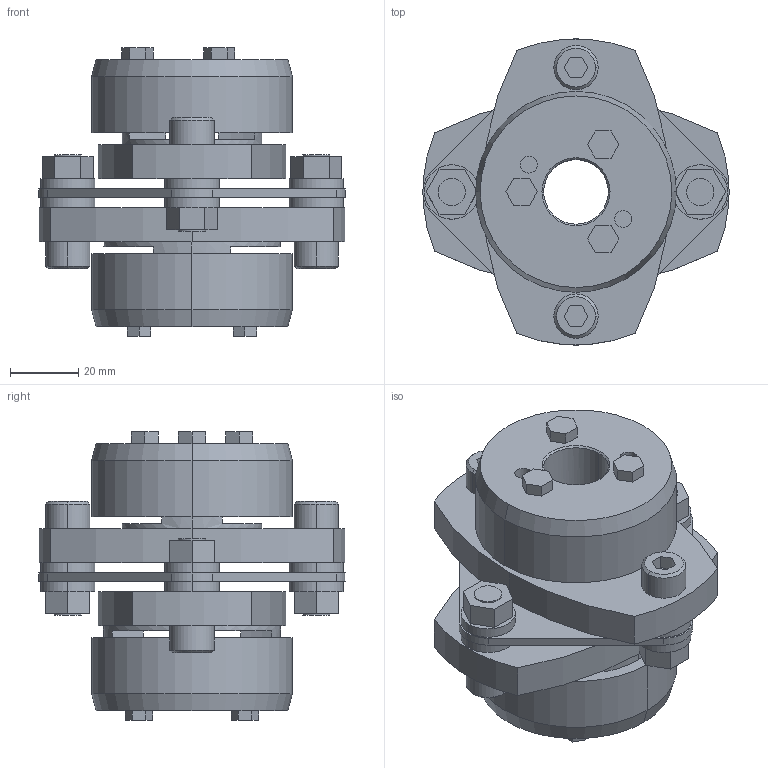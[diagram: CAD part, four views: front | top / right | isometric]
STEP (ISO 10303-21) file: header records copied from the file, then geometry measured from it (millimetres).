
FILE_DESCRIPTION((''),'2;1');
FILE_NAME('LCS-90T7-19×32.stp','2011-09-09T10:03:00',(''),(''),'AutoCAD STEP 2000i','AutoCAD 2000i',', , ');
FILE_SCHEMA(('CONFIG_CONTROL_DESIGN'));
Length unit declared in the file: millimetre
Products named in the file (10): LCS-90T7-19×32; 忣兜1; LC90T7-T032; LC90T7-T030; LC90T7-T025; LC90T7-T019-1; LC90T7-T019; LC90-B019-1; LC90-B019; LCS90-ITA
Assembly tree (9 placements, depth 2):
  LCS-90T7-19×32
    忣兜1
    LC90T7-T032
    LC90T7-T030
    LC90T7-T025
    LC90T7-T019-1
    LC90T7-T019
    LC90-B019-1
    LC90-B019
    LCS90-ITA
Bounding box: 90 x 89.94 x 84.8 mm (x, y, z)
Volume: 192710.1 mm3; surface area: 51648.6 mm2
Topology: 1 solids, 1 shells, 239 faces, 586 edges, 384 vertices
Faces by surface type: plane 139, cylinder 80, cone 20
Entity records: 7313 total; most frequent: DIRECTION 1280, CARTESIAN_POINT 1219, ORIENTED_EDGE 1172, EDGE_CURVE 586, AXIS2_PLACEMENT_3D 445, VECTOR 390, LINE 390, VERTEX_POINT 384
